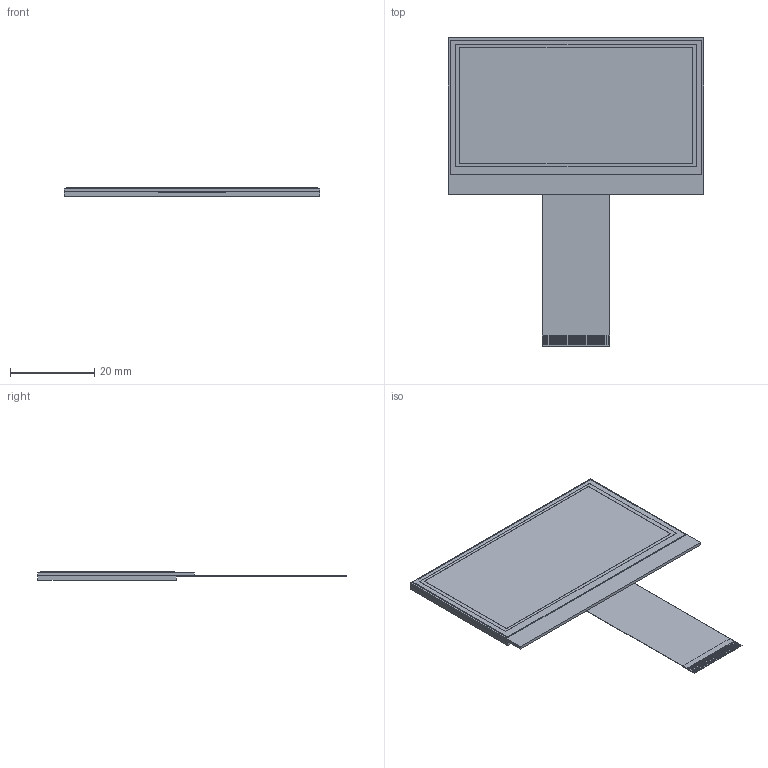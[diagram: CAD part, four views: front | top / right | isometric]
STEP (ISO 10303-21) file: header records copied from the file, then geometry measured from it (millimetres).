
FILE_DESCRIPTION(('STEP AP214'),'1');
FILE_NAME('tmp0.STEP','2018-12-12T10:48:04',(' '),(' '),'Spatial InterOp 3D',' ',' ');
FILE_SCHEMA(('automotive_design'));
Length unit declared in the file: millimetre
Products named in the file (38): 1; 2; 3; 4; 5; 6; 7; 8; 9; 10; 11; 12; 13; 14; 15; 16; 17; 18; 19; 20; 21; 22; 23; 24; 25; 26; 27; 28; 29; 30; 31; 32; 33; 34; 35; 36; 37; 38
Bounding box: 60.5 x 73 x 2.05 mm (x, y, z)
Volume: 4287.1 mm3; surface area: 20508 mm2
Topology: 38 solids, 38 shells, 362 faces, 852 edges, 568 vertices
Faces by surface type: plane 362
Entity records: 13928 total; most frequent: CARTESIAN_POINT 1820, ORIENTED_EDGE 1704, DIRECTION 1652, EDGE_CURVE 852, LINE 852, VECTOR 852, VERTEX_POINT 568, STYLED_ITEM 400
